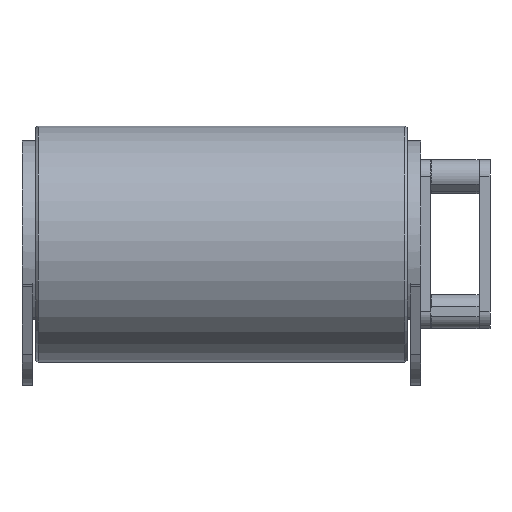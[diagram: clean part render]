
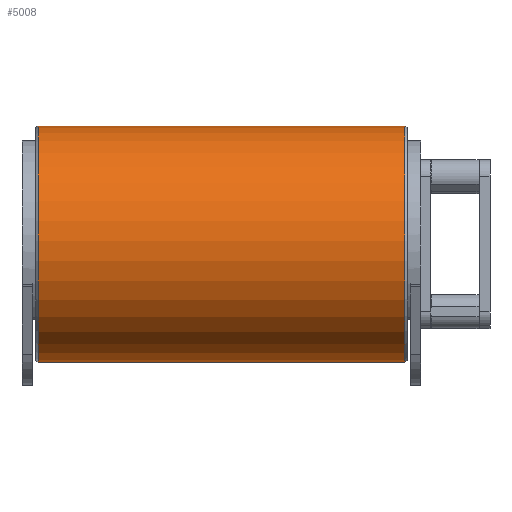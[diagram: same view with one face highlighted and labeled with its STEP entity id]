
A CAD part, top view. The second image highlights one B-rep face of the part: STEP entity #5008.
In plain terms, the highlighted cylindrical face has radius 70 mm (diameter 140 mm), a partial arc.
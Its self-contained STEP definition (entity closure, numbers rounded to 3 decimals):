
#336=CYLINDRICAL_SURFACE('',#5496,70.);
#436=FACE_OUTER_BOUND('',#695,.T.);
#695=EDGE_LOOP('',(#3514,#3515,#3516,#3517));
#1038=CIRCLE('',#5494,70.);
#1040=CIRCLE('',#5497,70.);
#1287=LINE('',#7590,#1770);
#1295=LINE('',#7616,#1778);
#1770=VECTOR('',#6048,10.);
#1778=VECTOR('',#6076,10.);
#2255=VERTEX_POINT('',#7582);
#2257=VERTEX_POINT('',#7588);
#2263=VERTEX_POINT('',#7608);
#2265=VERTEX_POINT('',#7614);
#2754=EDGE_CURVE('',#2255,#2257,#1287,.T.);
#2763=EDGE_CURVE('',#2263,#2255,#1038,.T.);
#2766=EDGE_CURVE('',#2265,#2257,#1040,.T.);
#2767=EDGE_CURVE('',#2263,#2265,#1295,.T.);
#3514=ORIENTED_EDGE('',*,*,#2754,.T.);
#3515=ORIENTED_EDGE('',*,*,#2766,.F.);
#3516=ORIENTED_EDGE('',*,*,#2767,.F.);
#3517=ORIENTED_EDGE('',*,*,#2763,.T.);
#5008=ADVANCED_FACE('',(#436),#336,.T.);
#5494=AXIS2_PLACEMENT_3D('',#7609,#6067,#6068);
#5496=AXIS2_PLACEMENT_3D('',#7613,#6072,#6073);
#5497=AXIS2_PLACEMENT_3D('',#7615,#6074,#6075);
#6048=DIRECTION('',(1.,0.,0.));
#6067=DIRECTION('center_axis',(1.,0.,0.));
#6068=DIRECTION('ref_axis',(0.,1.,0.));
#6072=DIRECTION('center_axis',(1.,0.,0.));
#6073=DIRECTION('ref_axis',(0.,-0.146,0.989));
#6074=DIRECTION('center_axis',(1.,0.,0.));
#6075=DIRECTION('ref_axis',(0.,1.,0.));
#6076=DIRECTION('',(1.,0.,0.));
#7582=CARTESIAN_POINT('',(-108.5,-137.033,419.837));
#7588=CARTESIAN_POINT('',(108.5,-137.033,419.837));
#7590=CARTESIAN_POINT('',(108.5,-137.033,419.837));
#7608=CARTESIAN_POINT('',(-108.5,0.,440.));
#7609=CARTESIAN_POINT('Origin',(-108.5,-70.,440.));
#7613=CARTESIAN_POINT('Origin',(0.,-70.,
440.));
#7614=CARTESIAN_POINT('',(108.5,0.,440.));
#7615=CARTESIAN_POINT('Origin',(108.5,-70.,440.));
#7616=CARTESIAN_POINT('',(108.5,0.,440.));
